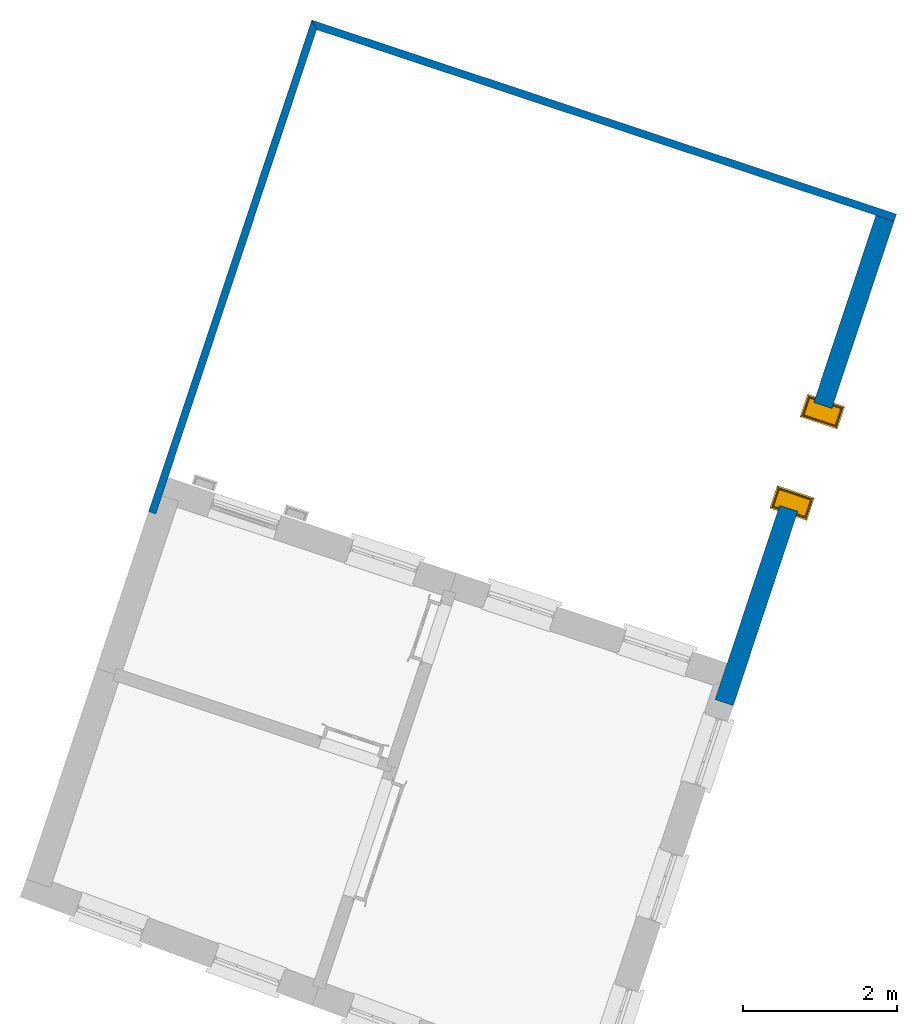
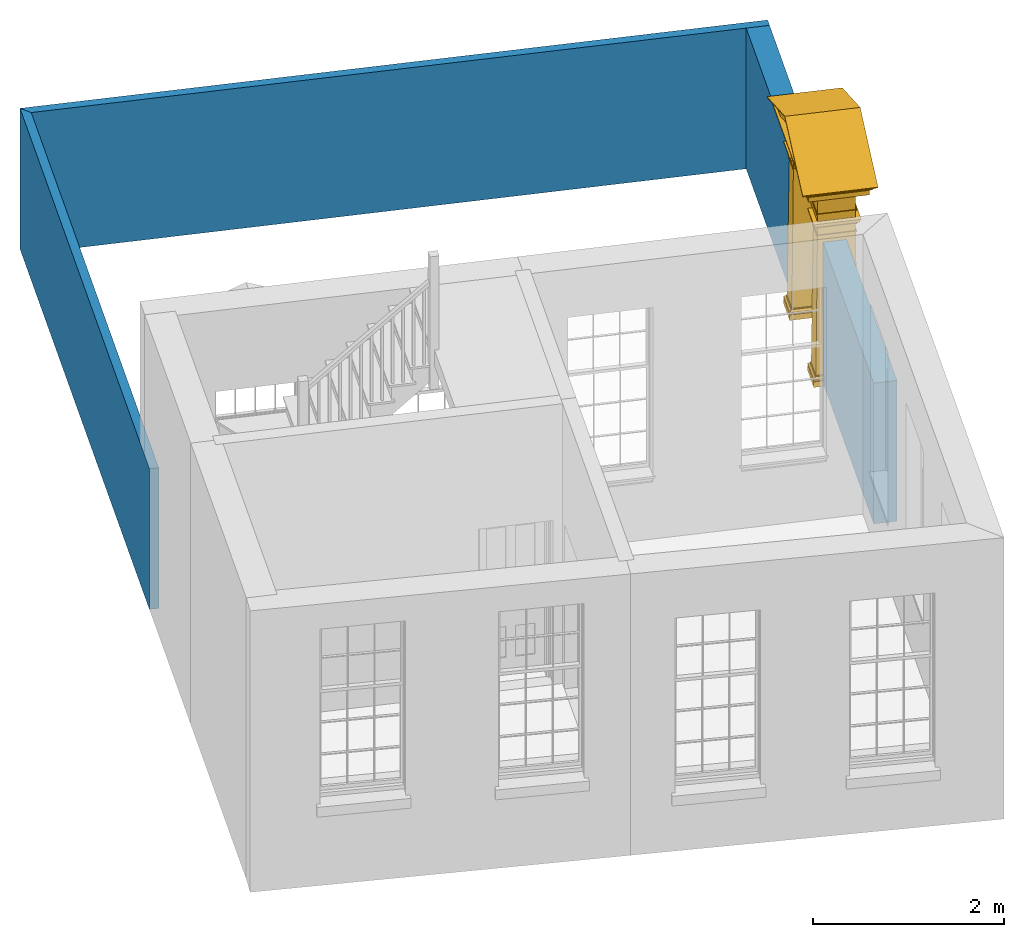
# One storey, part 6 of 6: 3 walls, 1 door, 1 opening.
"""IFC4 building model written with IfcOpenShell, lengths in metres."""

from ifc_helpers import new_model, si_unit, frame, origin, origin_with_axes, place, context, subcontext, project, spatial, polyline, outline, extrude, faceted_brep, source, transform, mapped, material, layer, layer_set, layer_usage, type_object, type_shapes, element, fill, save


model = new_model("IFC4")

# Units and contexts
model_context = context("Model", 3, world=origin_with_axes())
body_context = subcontext(model_context, "Body", "Model", "MODEL_VIEW")
ifc_project = project(units=[si_unit("PLANEANGLEUNIT", "RADIAN"), si_unit("MASSUNIT", "GRAM", prefix="KILO"), si_unit("FORCEUNIT", "NEWTON", prefix="KILO"), si_unit("LENGTHUNIT", "METRE"), si_unit("AREAUNIT", "SQUARE_METRE"), si_unit("VOLUMEUNIT", "CUBIC_METRE")], contexts=[model_context, model_context])

# Sites, building, storey
site_1_placement = place(None, origin_with_axes())
site_1 = spatial("IfcSite", under=ifc_project, at=site_1_placement, Name="Tamar")
site_2_placement = place(site_1_placement, origin_with_axes())
site_2 = spatial("IfcSite", under=site_1, at=site_2_placement, Name="Site plot-18", CompositionType="ELEMENT")
building_placement = place(None, origin_with_axes())
building = spatial("IfcBuilding", under=site_2, at=building_placement, Name="Building plot-18", CompositionType="ELEMENT")
storey_placement = place(None, frame((0.0, 0.0, 26.0), z_axis=(0.0, 0.0, 1.0), x_axis=(1.0, 0.0, 0.0)))
storey = spatial("IfcBuildingStorey", under=building, at=storey_placement, Name="plot-18 0", CompositionType="ELEMENT", Elevation=26.0)

# Walls
ifc_material_1 = material(Name="Masonry")
ifc_layer_1 = layer(ifc_material_1, 0.1, ventilated=False)
ifc_layer_set_1 = layer_set([ifc_layer_1], Name="fence_-0.15_0.25")
ifc_layer_usage_1 = layer_usage(ifc_layer_set_1, "AXIS2", "POSITIVE", -0.25)
wall_type_1 = type_object("IfcWallType", Name="fence_-0.15_0.25", PredefinedType="SOLIDWALL", material=ifc_layer_set_1)
wall_1_placement = place(storey_placement, frame((272.752286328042, 300.116321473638, 0.0), z_axis=(0.0, 0.0, 1.0), x_axis=(-0.949078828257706, 0.315038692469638, 0.0)))
element("IfcWall", 1, at=wall_1_placement, inside=storey, type_object=wall_type_1, material=ifc_layer_usage_1, Name="fence", context=body_context, shape_type="SweptSolid", body=[
    extrude(outline(polyline([(-0.249999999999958, -0.149999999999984), (-0.249999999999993, -0.249999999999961), (7.7499999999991, -0.249999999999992), (7.64999999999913, -0.15000000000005), (-0.249999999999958, -0.149999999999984)])), origin_with_axes(), (0.0, 0.0, 1.0), 1.8),
])
wall_2_placement = place(storey_placement, frame((265.63419511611, 302.47911166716, 0.0), z_axis=(0.0, 0.0, 1.0), x_axis=(-0.315038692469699, -0.949078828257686, 0.0)))
element("IfcWall", 2, at=wall_2_placement, inside=storey, type_object=wall_type_1, material=ifc_layer_usage_1, Name="fence", context=body_context, shape_type="SweptSolid", body=[
    extrude(outline(polyline([(-0.150000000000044, -0.149999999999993), (-0.249999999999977, -0.249999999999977), (6.47586766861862, -0.249999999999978), (6.47586766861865, -0.150000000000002), (-0.150000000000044, -0.149999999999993)])), origin_with_axes(), (0.0, 0.0, 1.0), 1.8),
])

# Wall, opening, door
ifc_material_2 = material(Name="Masonry")
ifc_layer_2 = layer(ifc_material_2, 0.25, ventilated=False)
ifc_layer_set_2 = layer_set([ifc_layer_2], Name="fence_0_0.25")
ifc_layer_usage_2 = layer_usage(ifc_layer_set_2, "AXIS2", "POSITIVE", -0.25)
wall_type_2 = type_object("IfcWallType", Name="fence_0_0.25", PredefinedType="SOLIDWALL", material=ifc_layer_set_2)
wall_3_placement = place(storey_placement, frame((270.790897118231, 294.207482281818, 0.0), z_axis=(0.0, 0.0, 1.0), x_axis=(0.315038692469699, 0.949078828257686, 0.0)))
wall_3 = element("IfcWall", 3, at=wall_3_placement, inside=storey, type_object=wall_type_2, material=ifc_layer_usage_2, Name="fence", context=body_context, shape_type="SweptSolid", body=[
    extrude(outline(polyline([(-0.249999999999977, 2.52660774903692e-16), (-0.249999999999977, -0.249999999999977), (6.47586766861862, -0.249999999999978), (6.47586766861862, 0.0), (-0.249999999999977, 2.52660774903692e-16)])), origin_with_axes(), (0.0, 0.0, 1.0), 1.8),
])
opening_placement = place(wall_3_placement, frame((2.40793383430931, 0.0, -0.0100000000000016)))
opening = element("IfcOpeningElement", 4, at=opening_placement, cuts=wall_3, Name="My Opening", ObjectType="Opening", context=body_context, shape_type="SweptSolid", body=[
    extrude(outline(polyline([(0.0, -0.269999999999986), (1.41000000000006, -0.270000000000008), (1.40999999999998, 1.02000000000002), (-8.79296635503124e-14, 1.02000000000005), (0.0, -0.269999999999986)])), origin_with_axes(), (0.0, 0.0, 1.0), 1.81),
])
door_type = type_object("IfcDoorType", Name="gate", OperationType="SINGLE_SWING_LEFT", PredefinedType="NOTDEFINED")
shared_shape = source(origin(), body_context, "Body", "Brep", [
    faceted_brep([(1.565, 0.25, 2.5), (1.565, -0.21, 2.5), (1.565, -0.21, 2.49), (1.565, 0.25, 2.49), (1.445, -0.09, 2.01), (1.215, -0.09, 2.01), (1.215, -0.09, 2.0), (1.445, -0.09, 2.0), (-0.035, -0.09, 2.180001), (-0.025, -0.08, 2.180001), (-0.025, 0.25, 2.180001), (-0.035, 0.25, 2.180001), (-0.025, -0.08, 2.170001), (-0.035, -0.09, 2.170001), (-0.035, 0.25, 2.170001), (-0.025, 0.25, 2.170001), (1.445, -0.09, 2.180001), (1.435, -0.08, 2.180001), (-0.025, -0.08, 2.37), (-0.025, 0.25, 2.37), (1.435, -0.08, 2.170001), (1.445, -0.09, 2.170001), (-0.025, -0.08, 2.08), (-0.025, 0.25, 2.08), (1.445, 0.25, 2.180001), (1.435, 0.25, 2.180001), (1.435, -0.08, 2.37), (-0.035, -0.09, 2.37), (-0.035, 0.25, 2.37), (1.435, 0.25, 2.37), (1.445, 0.25, 2.170001), (1.435, 0.25, 2.170001), (0.235, -0.08, 2.08), (0.235, 0.25, 2.08), (1.175, 0.25, 2.08), (1.175, -0.08, 2.08), (-0.075, 0.25, 2.08), (-0.075, -0.13, 2.08), (1.445, -0.09, 2.37), (-0.035, -0.09, 2.380001), (-0.035, 0.25, 2.380001), (1.445, 0.25, 2.37), (1.435, -0.08, 2.08), (1.435, 0.25, 2.08), (0.235, 0.38, 2.07), (0.235, 0.38, 2.08), (0.235, 0.33, 2.08), (0.235, -0.13, 2.08), (-0.075, 0.25, 2.07), (-0.075, -0.13, 2.07), (1.445, -0.09, 2.380001), (-0.045, -0.1, 2.39), (-0.045, 0.25, 2.39), (1.455, 0.25, 2.39), (1.455, -0.1, 2.39), (1.445, 0.25, 2.380001), (1.485, -0.13, 2.08), (1.485, 0.25, 2.08), (0.235, -0.13, 2.07), (1.175, -0.13, 2.08), (-0.065, 0.25, 2.07), (-0.065, -0.12, 2.07), (-0.055, -0.11, 2.39), (-0.055, 0.25, 2.39), (1.465, 0.25, 2.39), (1.465, -0.11, 2.39), (1.485, 0.25, 2.07), (1.485, -0.13, 2.07), (0.225, 0.25, 2.07), (0.235, 0.25, 2.07), (0.225, -0.12, 2.07), (-0.065, 0.25, 2.04), (-0.065, -0.12, 2.04), (1.475, 0.25, 2.07), (1.475, -0.12, 2.07), (1.175, 0.25, 2.07), (1.185, 0.25, 2.07), (1.185, -0.12, 2.07), (1.175, -0.13, 2.07), (1.175, 0.33, 2.08), (1.175, 0.38, 2.07), (-0.055, -0.11, 2.4), (-0.055, 0.25, 2.4), (1.465, 0.25, 2.4), (1.465, -0.11, 2.4), (0.225, 0.25, 2.04), (0.225, -0.12, 2.04), (-0.055, 0.25, 2.04), (-0.055, -0.11, 2.04), (1.475, 0.25, 2.04), (1.475, -0.12, 2.04), (1.185, 0.25, 2.04), (1.195, 0.25, 2.04), (1.195, -0.11, 2.04), (1.185, -0.12, 2.04), (-0.065, -0.12, 2.4), (-0.065, 0.25, 2.4), (-0.085, -0.14, 2.42), (-0.085, 0.25, 2.42), (-0.085, -0.14, 2.43), (-0.085, 0.25, 2.43), (1.495, 0.25, 2.43), (1.495, -0.14, 2.43), (1.495, -0.14, 2.42), (1.495, 0.25, 2.42), (1.475, 0.25, 2.4), (1.475, -0.12, 2.4), (0.215, 0.25, 2.04), (0.215, -0.11, 2.04), (-0.055, 0.25, 2.03), (-0.055, -0.11, 2.03), (0.215, 0.25, 2.03), (0.215, -0.11, 2.03), (1.465, 0.25, 2.04), (1.465, -0.11, 2.04), (1.195, 0.25, 2.03), (1.195, -0.11, 2.03), (1.465, 0.25, 2.03), (1.465, -0.11, 2.03), (-0.145, -0.2, 2.43), (-0.145, 0.25, 2.43), (1.555, 0.25, 2.43), (1.555, -0.2, 2.43), (-0.035, 0.25, 2.01), (-0.035, -0.09, 2.01), (0.195, 0.25, 2.01), (0.195, -0.09, 2.01), (1.215, 0.25, 2.01), (1.445, 0.25, 2.01), (-0.145, -0.2, 2.49), (-0.145, 0.25, 2.49), (1.555, 0.25, 2.49), (1.555, -0.2, 2.49), (-0.035, 0.25, 2.0), (-0.035, -0.09, 2.0), (0.195, 0.25, 2.0), (0.195, -0.09, 2.0), (1.215, 0.25, 2.0), (1.445, 0.25, 2.0), (-0.155, -0.21, 2.49), (-0.155, 0.25, 2.49), (-0.155, -0.21, 2.5), (-0.155, 0.25, 2.5), (-0.165, -0.22, 2.51), (-0.165, 0.25, 2.51), (1.575, 0.25, 2.51), (1.575, -0.22, 2.51), (-0.025, -0.08, 2.0), (-0.025, 0.25, 2.0), (0.185, -0.08, 2.0), (0.185, 0.25, 2.0), (-0.025, 0.25, 1.91), (-0.025, -0.08, 1.91), (0.185, 0.25, 1.91), (0.185, -0.08, 1.91), (1.225, 0.25, 2.0), (1.225, -0.08, 2.0), (1.435, -0.08, 2.0), (1.435, 0.25, 2.0), (1.435, 0.25, 1.91), (1.435, -0.08, 1.91), (1.225, 0.25, 1.91), (1.225, -0.08, 1.91), (-0.175, -0.23, 2.51), (-0.175, 0.25, 2.51), (1.585, 0.25, 2.51), (1.585, -0.23, 2.51), (-0.035, 0.25, 1.91), (-0.035, -0.09, 1.91), (0.195, -0.09, 1.91), (0.195, 0.25, 1.91), (1.445, -0.09, 1.91), (1.445, 0.25, 1.91), (1.215, -0.09, 1.91), (1.215, 0.25, 1.91), (-0.175, -0.23, 2.52), (-0.175, 0.25, 2.52), (1.585, 0.25, 2.52), (1.585, -0.23, 2.52), (-0.035, 0.25, 1.9), (-0.035, -0.09, 1.9), (0.195, 0.25, 1.9), (0.195, -0.09, 1.9), (-0.025, -0.08, 1.9), (-0.025, 0.25, 1.9), (0.185, -0.08, 1.9), (0.185, 0.25, 1.9), (-0.045, 0.25, 0.13), (-0.045, -0.1, 0.13), (0.205, 0.25, 0.13), (0.205, -0.1, 0.13), (1.445, -0.09, 1.9), (1.445, 0.25, 1.9), (1.435, -0.08, 1.9), (1.435, 0.25, 1.9), (1.455, -0.1, 0.13), (1.455, 0.25, 0.13), (1.225, 0.25, 1.9), (1.205, 0.25, 0.13), (1.205, -0.1, 0.13), (1.225, -0.08, 1.9), (1.215, -0.09, 1.9), (1.215, 0.25, 1.9), (-0.185, -0.24, 2.526), (-0.185, 0.25, 2.526), (-0.150858, -0.23, 2.52), (1.560858, -0.23, 2.52), (-0.195, -0.25, 2.551001), (-0.195, 0.25, 2.551001), (-0.223, 0.25, 2.561001), (-0.223, -0.278, 2.561001), (1.633, -0.278, 2.561001), (1.605, -0.25, 2.551001), (1.605, 0.25, 2.551001), (1.633, 0.25, 2.561001), (1.595, 0.25, 2.526), (1.595, -0.24, 2.526), (-0.055, 0.25, 0.13), (-0.055, -0.11, 0.13), (0.215, 0.25, 0.13), (0.215, -0.11, 0.13), (1.465, -0.11, 0.13), (1.465, 0.25, 0.13), (1.195, 0.25, 0.13), (1.195, -0.11, 0.13), (0.705, -0.23, 2.884508), (0.705, -0.24, 2.89465), (0.705, -0.23, 2.874508), (1.486538, -0.21, 2.522499), (-0.076538, -0.21, 2.522499), (0.705, -0.25, 2.923792), (0.705, -0.278, 2.945389), (-0.223, -0.278, 2.571001), (-0.223, 0.25, 2.571001), (1.633, 0.25, 2.571001), (1.633, -0.278, 2.571001), (-0.055, 0.25, 0.12), (-0.055, -0.11, 0.12), (0.215, 0.25, 0.12), (0.215, -0.11, 0.12), (-0.075, 0.25, 0.1), (-0.075, -0.13, 0.1), (0.235, 0.25, 0.1), (0.235, -0.13, 0.1), (1.465, 0.25, 0.12), (1.465, -0.11, 0.12), (1.485, 0.25, 0.1), (1.485, -0.13, 0.1), (1.195, 0.25, 0.12), (1.175, 0.25, 0.1), (1.175, -0.13, 0.1), (1.195, -0.11, 0.12), (-0.13784, -0.22, 2.52125), (0.705, -0.22, 2.870365), (1.51068, -0.21, 2.522499), (1.54784, -0.22, 2.52125), (1.316733, -0.2, 2.523749), (0.093267, -0.2, 2.523749), (-0.10068, -0.21, 2.522499), (0.705, -0.278, 2.955389), (0.705, 0.25, 2.955389), (-0.075, 0.25, 0.08), (-0.075, -0.13, 0.08), (0.235, 0.25, 0.08), (0.235, -0.13, 0.08), (1.485, -0.13, 0.08), (1.485, 0.25, 0.08), (1.175, 0.25, 0.08), (1.175, -0.13, 0.08), (0.705, -0.21, 2.856223), (0.705, -0.21, 2.846222), (1.272495, -0.14, 2.53125), (0.137505, -0.14, 2.53125), (-0.06352, -0.2, 2.523749), (1.47352, -0.2, 2.523749), (-0.065, 0.25, 0.07), (-0.065, -0.12, 0.07), (0.225, 0.25, 0.07), (0.225, -0.12, 0.07), (1.475, 0.25, 0.07), (1.475, -0.12, 0.07), (1.185, 0.25, 0.07), (1.185, -0.12, 0.07), (0.705, -0.2, 2.842082), (1.298626, -0.14, 2.53125), (1.214197, -0.12, 2.533749), (0.195803, -0.12, 2.533749), (0.111374, -0.14, 2.53125), (0.705, -0.2, 2.777137), (-0.075, 0.25, 0.07), (-0.075, -0.13, 0.07), (0.235, -0.13, 0.07), (0.235, 0.25, 0.07), (0.235, -0.13, 0.0), (-0.075, -0.13, 0.0), (-0.075, 0.25, 0.0), (0.235, 0.25, 0.0), (1.485, -0.13, 0.07), (1.485, 0.25, 0.07), (1.485, -0.13, 0.0), (1.175, -0.13, 0.0), (1.175, 0.25, 0.0), (1.485, 0.25, 0.0), (1.175, -0.13, 0.07), (1.175, 0.25, 0.07), (0.705, -0.14, 2.766314), (0.705, -0.14, 2.777137), (0.705, -0.12, 2.744666), (1.185048, -0.11, 2.535), (0.224952, -0.11, 2.535), (0.705, -0.11, 2.744666), (1.211179, -0.11, 2.535), (1.12675, -0.09, 2.537501), (0.28325, -0.09, 2.537501), (0.198821, -0.11, 2.535), (0.705, -0.11, 2.733843), (1.152881, -0.09, 2.537501), (1.18203, -0.1, 2.536251), (0.286268, -0.08, 2.538751), (1.123732, -0.08, 2.538751), (0.22797, -0.1, 2.536251), (0.257119, -0.09, 2.537501), (0.705, -0.1, 2.733843), (0.705, -0.09, 2.712194), (0.705, -0.09, 2.723017), (0.705, -0.08, 2.712194), (-0.155, 0.46, 2.5), (-0.155, 0.46, 2.49), (-0.035, 0.34, 2.01), (0.195, 0.34, 2.01), (0.195, 0.34, 2.0), (-0.035, 0.34, 2.0), (1.445, 0.34, 2.180001), (1.435, 0.33, 2.180001), (1.435, 0.33, 2.170001), (1.445, 0.34, 2.170001), (-0.035, 0.34, 2.180001), (-0.025, 0.33, 2.180001), (1.435, 0.33, 2.37), (-0.025, 0.33, 2.170001), (-0.035, 0.34, 2.170001), (1.435, 0.33, 2.08), (-0.025, 0.33, 2.37), (1.445, 0.34, 2.37), (1.485, 0.38, 2.08), (-0.035, 0.34, 2.37), (1.445, 0.34, 2.380001), (-0.025, 0.33, 2.08), (1.175, 0.38, 2.08), (1.485, 0.38, 2.07), (-0.035, 0.34, 2.380001), (1.455, 0.35, 2.39), (-0.045, 0.35, 2.39), (-0.075, 0.38, 2.08), (1.475, 0.37, 2.07), (1.465, 0.36, 2.39), (-0.055, 0.36, 2.39), (-0.075, 0.38, 2.07), (1.185, 0.37, 2.07), (1.475, 0.37, 2.04), (-0.065, 0.37, 2.07), (0.225, 0.37, 2.07), (1.465, 0.36, 2.4), (-0.055, 0.36, 2.4), (1.185, 0.37, 2.04), (1.465, 0.36, 2.04), (-0.065, 0.37, 2.04), (0.215, 0.36, 2.04), (0.225, 0.37, 2.04), (1.475, 0.37, 2.4), (1.495, 0.39, 2.42), (1.495, 0.39, 2.43), (-0.085, 0.39, 2.43), (-0.085, 0.39, 2.42), (-0.065, 0.37, 2.4), (1.195, 0.36, 2.04), (1.465, 0.36, 2.03), (1.195, 0.36, 2.03), (-0.055, 0.36, 2.04), (0.215, 0.36, 2.03), (-0.055, 0.36, 2.03), (1.555, 0.45, 2.43), (-0.145, 0.45, 2.43), (1.445, 0.34, 2.01), (1.215, 0.34, 2.01), (1.555, 0.45, 2.49), (-0.145, 0.45, 2.49), (1.445, 0.34, 2.0), (1.215, 0.34, 2.0), (1.565, 0.46, 2.49), (1.565, 0.46, 2.5), (1.575, 0.47, 2.51), (-0.165, 0.47, 2.51), (1.435, 0.33, 2.0), (1.225, 0.33, 2.0), (1.435, 0.33, 1.91), (1.225, 0.33, 1.91), (0.185, 0.33, 2.0), (-0.025, 0.33, 2.0), (-0.025, 0.33, 1.91), (0.185, 0.33, 1.91), (1.585, 0.48, 2.51), (-0.175, 0.48, 2.51), (1.445, 0.34, 1.91), (1.215, 0.34, 1.91), (-0.035, 0.34, 1.91), (0.195, 0.34, 1.91), (1.585, 0.48, 2.52), (-0.175, 0.48, 2.52), (1.445, 0.34, 1.9), (1.215, 0.34, 1.9), (1.435, 0.33, 1.9), (1.225, 0.33, 1.9), (1.455, 0.35, 0.13), (1.205, 0.35, 0.13), (-0.035, 0.34, 1.9), (-0.025, 0.33, 1.9), (-0.045, 0.35, 0.13), (0.205, 0.35, 0.13), (0.185, 0.33, 1.9), (0.195, 0.34, 1.9), (1.595, 0.49, 2.526), (1.560858, 0.48, 2.52), (-0.150858, 0.48, 2.52), (1.605, 0.5, 2.551001), (1.633, 0.528, 2.561001), (-0.223, 0.528, 2.561001), (-0.195, 0.5, 2.551001), (-0.185, 0.49, 2.526), (1.465, 0.36, 0.13), (1.195, 0.36, 0.13), (-0.055, 0.36, 0.13), (0.215, 0.36, 0.13), (0.705, 0.48, 2.884508), (0.705, 0.49, 2.89465), (0.705, 0.48, 2.874508), (-0.076538, 0.46, 2.522499), (1.486538, 0.46, 2.522499), (0.705, 0.5, 2.923792), (0.705, 0.528, 2.945389), (1.633, 0.528, 2.571001), (-0.223, 0.528, 2.571001), (1.465, 0.36, 0.12), (1.195, 0.36, 0.12), (1.485, 0.38, 0.1), (1.175, 0.38, 0.1), (-0.055, 0.36, 0.12), (-0.075, 0.38, 0.1), (0.235, 0.38, 0.1), (0.215, 0.36, 0.12), (1.54784, 0.47, 2.52125), (0.705, 0.47, 2.870365), (-0.10068, 0.46, 2.522499), (-0.13784, 0.47, 2.52125), (0.093267, 0.45, 2.523749), (1.316733, 0.45, 2.523749), (1.51068, 0.46, 2.522499), (0.705, 0.528, 2.955389), (1.485, 0.38, 0.08), (1.175, 0.38, 0.08), (-0.075, 0.38, 0.08), (0.235, 0.38, 0.08), (0.705, 0.46, 2.856223), (0.705, 0.46, 2.846222), (0.137505, 0.39, 2.53125), (1.272495, 0.39, 2.53125), (1.47352, 0.45, 2.523749), (-0.06352, 0.45, 2.523749), (1.475, 0.37, 0.07), (1.185, 0.37, 0.07), (-0.065, 0.37, 0.07), (0.225, 0.37, 0.07), (0.705, 0.45, 2.842082), (0.111374, 0.39, 2.53125), (0.195803, 0.37, 2.533749), (1.214197, 0.37, 2.533749), (1.298626, 0.39, 2.53125), (0.705, 0.45, 2.777137), (1.485, 0.38, 0.07), (1.175, 0.38, 0.07), (1.175, 0.38, 0.0), (1.485, 0.38, 0.0), (-0.075, 0.38, 0.07), (-0.075, 0.38, 0.0), (0.235, 0.38, 0.0), (0.235, 0.38, 0.07), (0.705, 0.39, 2.766314), (0.705, 0.39, 2.777137), (0.705, 0.37, 2.744666), (0.224952, 0.36, 2.535), (1.185048, 0.36, 2.535), (0.705, 0.36, 2.744666), (0.198821, 0.36, 2.535), (0.28325, 0.34, 2.537501), (1.12675, 0.34, 2.537501), (1.211179, 0.36, 2.535), (0.705, 0.36, 2.733843), (0.257119, 0.34, 2.537501), (0.22797, 0.35, 2.536251), (1.123732, 0.33, 2.538751), (0.286268, 0.33, 2.538751), (1.18203, 0.35, 2.536251), (1.152881, 0.34, 2.537501), (0.705, 0.35, 2.733843), (0.705, 0.34, 2.723017), (0.705, 0.34, 2.712194), (0.705, 0.33, 2.712194)], [[[0, 1, 2, 3]], [[4, 5, 6, 7]], [[8, 9, 10, 11]], [[12, 13, 14, 15]], [[13, 8, 11, 14]], [[9, 8, 16, 17]], [[9, 18, 19, 10]], [[13, 12, 20, 21]], [[22, 12, 15, 23]], [[8, 13, 21, 16]], [[17, 16, 24, 25]], [[18, 9, 17, 26]], [[27, 28, 19, 18]], [[26, 17, 25, 29]], [[16, 21, 30, 24]], [[21, 20, 31, 30]], [[32, 33, 34, 35]], [[12, 32, 35, 20]], [[12, 22, 32]], [[22, 23, 36, 37]], [[27, 18, 26, 38]], [[39, 40, 28, 27]], [[41, 38, 26, 29]], [[20, 42, 43, 31]], [[44, 45, 46]], [[42, 20, 35]], [[37, 47, 32, 22]], [[36, 48, 49, 37]], [[39, 27, 38, 50]], [[51, 52, 40, 39]], [[53, 54, 50, 55]], [[55, 50, 38, 41]], [[43, 42, 56, 57]], [[32, 47, 58]], [[59, 56, 42, 35]], [[58, 47, 37, 49]], [[48, 60, 61, 49]], [[51, 39, 50, 54]], [[62, 63, 52, 51]], [[64, 65, 54, 53]], [[66, 57, 56, 67]], [[68, 69, 58, 70]], [[60, 71, 72, 61]], [[73, 66, 67, 74]], [[75, 76, 77, 78]], [[34, 79, 80, 75]], [[59, 78, 67, 56]], [[61, 70, 58, 49]], [[62, 51, 54, 65]], [[81, 82, 63, 62]], [[83, 84, 65, 64]], [[85, 68, 70, 86]], [[71, 87, 88, 72]], [[86, 70, 61, 72]], [[77, 74, 67, 78]], [[89, 73, 74, 90]], [[91, 92, 93, 94]], [[76, 91, 94, 77]], [[81, 62, 65, 84]], [[95, 96, 82, 81]], [[97, 98, 96, 95]], [[99, 100, 98, 97]], [[101, 102, 103, 104]], [[105, 106, 84, 83]], [[104, 103, 106, 105]], [[107, 85, 86, 108]], [[87, 109, 110, 88]], [[88, 108, 86, 72]], [[111, 107, 108, 112]], [[77, 94, 90, 74]], [[113, 89, 90, 114]], [[92, 115, 116, 93]], [[93, 114, 90, 94]], [[117, 113, 114, 118]], [[95, 81, 84, 106]], [[97, 95, 106, 103]], [[119, 120, 100, 99]], [[99, 97, 103, 102]], [[121, 122, 102, 101]], [[109, 123, 124, 110]], [[112, 108, 88, 110]], [[125, 111, 112, 126]], [[115, 127, 5, 116]], [[93, 116, 118, 114]], [[128, 117, 118, 4]], [[129, 130, 120, 119]], [[119, 99, 102, 122]], [[131, 132, 122, 121]], [[123, 133, 134, 124]], [[110, 124, 126, 112]], [[135, 125, 126, 136]], [[127, 137, 6, 5]], [[4, 118, 116, 5]], [[138, 128, 4, 7]], [[139, 140, 130, 129]], [[129, 119, 122, 132]], [[141, 142, 140, 139]], [[143, 144, 142, 141]], [[145, 146, 1, 0]], [[3, 2, 132, 131]], [[147, 134, 133, 148]], [[126, 124, 134, 136]], [[135, 136, 149, 150]], [[148, 151, 152, 147]], [[153, 150, 149, 154]], [[6, 137, 155, 156]], [[7, 157, 158, 138]], [[159, 158, 157, 160]], [[155, 161, 162, 156]], [[139, 129, 132, 2]], [[141, 139, 2, 1]], [[163, 164, 144, 143]], [[143, 141, 1, 146]], [[165, 166, 146, 145]], [[147, 149, 136, 134]], [[167, 168, 152, 151]], [[147, 152, 154, 149]], [[154, 169, 170, 153]], [[156, 157, 7, 6]], [[160, 157, 156, 162]], [[171, 172, 159, 160]], [[173, 162, 161, 174]], [[175, 176, 164, 163]], [[163, 143, 146, 166]], [[177, 178, 166, 165]], [[179, 180, 168, 167]], [[154, 152, 168, 169]], [[181, 170, 169, 182]], [[183, 180, 179, 184]], [[181, 182, 185, 186]], [[184, 187, 188, 183]], [[189, 186, 185, 190]], [[160, 162, 173, 171]], [[191, 192, 172, 171]], [[191, 193, 194, 192]], [[193, 195, 196, 194]], [[197, 198, 199, 200]], [[201, 202, 197, 200]], [[174, 202, 201, 173]], [[203, 204, 176, 175]], [[175, 163, 205]], [[163, 166, 206, 205]], [[207, 208, 204, 203]], [[209, 208, 207, 210]], [[211, 212, 213, 214]], [[215, 216, 178, 177]], [[213, 212, 216, 215]], [[178, 206, 166]], [[180, 182, 169, 168]], [[183, 185, 182, 180]], [[187, 217, 218, 188]], [[183, 188, 190, 185]], [[219, 189, 190, 220]], [[201, 191, 171, 173]], [[200, 193, 191, 201]], [[195, 193, 200, 199]], [[195, 221, 222, 196]], [[198, 223, 224, 199]], [[175, 225, 226, 203]], [[225, 175, 205, 227]], [[205, 206, 228, 229]], [[203, 226, 230, 207]], [[207, 230, 231, 210]], [[232, 233, 209, 210]], [[234, 235, 211, 214]], [[231, 230, 212, 211]], [[216, 226, 225, 178]], [[212, 230, 226, 216]], [[227, 206, 178, 225]], [[217, 236, 237, 218]], [[220, 190, 188, 218]], [[238, 219, 220, 239]], [[236, 240, 241, 237]], [[242, 238, 239, 243]], [[221, 195, 199, 224]], [[244, 222, 221, 245]], [[246, 244, 245, 247]], [[248, 249, 250, 251]], [[223, 248, 251, 224]], [[227, 205, 252, 253]], [[254, 228, 206, 255]], [[256, 257, 229, 228]], [[252, 205, 229, 258]], [[231, 259, 232, 210]], [[260, 233, 232, 259]], [[234, 260, 259, 235]], [[259, 231, 211, 235]], [[253, 255, 206, 227]], [[239, 220, 218, 237]], [[261, 262, 241, 240]], [[243, 239, 237, 241]], [[263, 242, 243, 264]], [[224, 251, 245, 221]], [[251, 250, 247, 245]], [[265, 266, 246, 247]], [[249, 267, 268, 250]], [[253, 252, 258, 269]], [[270, 228, 254, 269]], [[269, 254, 255, 253]], [[256, 271, 272, 257]], [[273, 229, 257]], [[274, 256, 228]], [[269, 258, 229, 270]], [[261, 275, 276, 262]], [[264, 243, 241, 262]], [[277, 263, 264, 278]], [[250, 268, 265, 247]], [[279, 266, 265, 280]], [[267, 281, 282, 268]], [[283, 274, 228, 270]], [[284, 271, 256]], [[271, 285, 286, 272]], [[287, 257, 272]], [[270, 229, 273, 283]], [[283, 273, 257, 288]], [[288, 256, 274, 283]], [[289, 290, 276, 275]], [[262, 276, 278, 264]], [[278, 291, 292, 277]], [[293, 294, 295, 296]], [[280, 265, 268, 282]], [[297, 298, 279, 280]], [[299, 300, 301, 302]], [[303, 282, 281, 304]], [[305, 271, 284, 306]], [[306, 284, 256, 288]], [[307, 285, 271, 305]], [[285, 308, 309, 286]], [[305, 272, 286, 307]], [[288, 257, 287, 306]], [[306, 287, 272, 305]], [[289, 295, 294, 290]], [[278, 276, 290, 291]], [[296, 292, 291, 293]], [[290, 294, 293, 291]], [[280, 282, 303, 297]], [[302, 298, 297, 299]], [[299, 297, 303, 300]], [[304, 301, 300, 303]], [[310, 311, 285, 307]], [[311, 308, 285]], [[308, 312, 313, 309]], [[314, 286, 309]], [[307, 286, 314, 310]], [[315, 308, 311, 310]], [[316, 312, 308, 317]], [[318, 313, 312, 319]], [[320, 309, 313, 321]], [[310, 314, 309, 315]], [[322, 317, 308, 315]], [[323, 312, 316, 324]], [[324, 316, 317, 322]], [[323, 313, 318, 325]], [[325, 319, 312, 323]], [[325, 318, 319]], [[315, 309, 320, 322]], [[324, 321, 313, 323]], [[322, 320, 321, 324]], [[142, 326, 327, 140]], [[328, 329, 330, 331]], [[332, 333, 25, 24]], [[334, 335, 30, 31]], [[335, 332, 24, 30]], [[333, 332, 336, 337]], [[333, 338, 29, 25]], [[335, 334, 339, 340]], [[341, 334, 31, 43]], [[332, 335, 340, 336]], [[337, 336, 11, 10]], [[338, 333, 337, 342]], [[343, 41, 29, 338]], [[342, 337, 10, 19]], [[336, 340, 14, 11]], [[340, 339, 15, 14]], [[79, 34, 33, 46]], [[334, 79, 46, 339]], [[334, 341, 79]], [[341, 43, 57, 344]], [[343, 338, 342, 345]], [[346, 55, 41, 343]], [[28, 345, 342, 19]], [[339, 347, 23, 15]], [[35, 34, 75, 78]], [[33, 32, 58, 69]], [[347, 339, 46]], [[344, 348, 79, 341]], [[57, 66, 349, 344]], [[346, 343, 345, 350]], [[351, 53, 55, 346]], [[52, 352, 350, 40]], [[40, 350, 345, 28]], [[23, 347, 353, 36]], [[79, 348, 80]], [[45, 353, 347, 46]], [[80, 348, 344, 349]], [[66, 73, 354, 349]], [[351, 346, 350, 352]], [[355, 64, 53, 351]], [[63, 356, 352, 52]], [[48, 36, 353, 357]], [[76, 75, 80, 358]], [[73, 89, 359, 354]], [[60, 48, 357, 360]], [[69, 68, 361, 44]], [[46, 33, 69, 44]], [[45, 44, 357, 353]], [[354, 358, 80, 349]], [[355, 351, 352, 356]], [[362, 83, 64, 355]], [[82, 363, 356, 63]], [[91, 76, 358, 364]], [[89, 113, 365, 359]], [[364, 358, 354, 359]], [[361, 360, 357, 44]], [[71, 60, 360, 366]], [[85, 107, 367, 368]], [[68, 85, 368, 361]], [[362, 355, 356, 363]], [[369, 105, 83, 362]], [[370, 104, 105, 369]], [[371, 101, 104, 370]], [[100, 372, 373, 98]], [[96, 374, 363, 82]], [[98, 373, 374, 96]], [[92, 91, 364, 375]], [[113, 117, 376, 365]], [[365, 375, 364, 359]], [[115, 92, 375, 377]], [[361, 368, 366, 360]], [[87, 71, 366, 378]], [[107, 111, 379, 367]], [[367, 378, 366, 368]], [[109, 87, 378, 380]], [[369, 362, 363, 374]], [[370, 369, 374, 373]], [[381, 121, 101, 371]], [[371, 370, 373, 372]], [[120, 382, 372, 100]], [[117, 128, 383, 376]], [[377, 375, 365, 376]], [[127, 115, 377, 384]], [[111, 125, 329, 379]], [[367, 379, 380, 378]], [[123, 109, 380, 328]], [[385, 131, 121, 381]], [[381, 371, 372, 382]], [[130, 386, 382, 120]], [[128, 138, 387, 383]], [[376, 383, 384, 377]], [[137, 127, 384, 388]], [[125, 135, 330, 329]], [[328, 380, 379, 329]], [[133, 123, 328, 331]], [[389, 3, 131, 385]], [[385, 381, 382, 386]], [[390, 0, 3, 389]], [[391, 145, 0, 390]], [[144, 392, 326, 142]], [[140, 327, 386, 130]], [[393, 387, 138, 158]], [[384, 383, 387, 388]], [[137, 388, 394, 155]], [[158, 159, 395, 393]], [[161, 155, 394, 396]], [[330, 135, 150, 397]], [[331, 398, 148, 133]], [[151, 148, 398, 399]], [[150, 153, 400, 397]], [[389, 385, 386, 327]], [[390, 389, 327, 326]], [[401, 165, 145, 391]], [[391, 390, 326, 392]], [[164, 402, 392, 144]], [[393, 394, 388, 387]], [[172, 403, 395, 159]], [[393, 395, 396, 394]], [[396, 404, 174, 161]], [[397, 398, 331, 330]], [[399, 398, 397, 400]], [[405, 167, 151, 399]], [[406, 400, 153, 170]], [[407, 177, 165, 401]], [[401, 391, 392, 402]], [[176, 408, 402, 164]], [[192, 409, 403, 172]], [[396, 395, 403, 404]], [[202, 174, 404, 410]], [[411, 409, 192, 194]], [[202, 410, 412, 197]], [[194, 196, 413, 411]], [[198, 197, 412, 414]], [[399, 400, 406, 405]], [[415, 179, 167, 405]], [[415, 416, 184, 179]], [[416, 417, 187, 184]], [[186, 189, 418, 419]], [[420, 181, 186, 419]], [[170, 181, 420, 406]], [[421, 215, 177, 407]], [[407, 401, 422]], [[401, 402, 423, 422]], [[424, 213, 215, 421]], [[214, 213, 424, 425]], [[426, 427, 208, 209]], [[204, 428, 408, 176]], [[208, 427, 428, 204]], [[408, 423, 402]], [[409, 410, 404, 403]], [[411, 412, 410, 409]], [[196, 222, 429, 413]], [[411, 413, 414, 412]], [[223, 198, 414, 430]], [[420, 415, 405, 406]], [[419, 416, 415, 420]], [[417, 416, 419, 418]], [[417, 431, 217, 187]], [[189, 219, 432, 418]], [[407, 433, 434, 421]], [[433, 407, 422, 435]], [[422, 423, 436, 437]], [[421, 434, 438, 424]], [[424, 438, 439, 425]], [[440, 234, 214, 425]], [[233, 441, 426, 209]], [[439, 438, 427, 426]], [[428, 434, 433, 408]], [[427, 438, 434, 428]], [[435, 423, 408, 433]], [[222, 244, 442, 429]], [[430, 414, 413, 429]], [[248, 223, 430, 443]], [[244, 246, 444, 442]], [[249, 248, 443, 445]], [[431, 417, 418, 432]], [[236, 217, 431, 446]], [[240, 236, 446, 447]], [[238, 242, 448, 449]], [[219, 238, 449, 432]], [[435, 422, 450, 451]], [[452, 436, 423, 453]], [[454, 455, 437, 436]], [[450, 422, 437, 456]], [[439, 457, 440, 425]], [[260, 234, 440, 457]], [[233, 260, 457, 441]], [[457, 439, 426, 441]], [[451, 453, 423, 435]], [[443, 430, 429, 442]], [[266, 458, 444, 246]], [[445, 443, 442, 444]], [[267, 249, 445, 459]], [[432, 449, 446, 431]], [[449, 448, 447, 446]], [[460, 261, 240, 447]], [[242, 263, 461, 448]], [[451, 450, 456, 462]], [[463, 436, 452, 462]], [[462, 452, 453, 451]], [[454, 464, 465, 455]], [[466, 437, 455]], [[467, 454, 436]], [[462, 456, 437, 463]], [[266, 279, 468, 458]], [[459, 445, 444, 458]], [[281, 267, 459, 469]], [[448, 461, 460, 447]], [[275, 261, 460, 470]], [[263, 277, 471, 461]], [[472, 467, 436, 463]], [[473, 464, 454]], [[464, 474, 475, 465]], [[476, 455, 465]], [[463, 437, 466, 472]], [[472, 466, 455, 477]], [[477, 454, 467, 472]], [[298, 478, 468, 279]], [[458, 468, 469, 459]], [[469, 479, 304, 281]], [[480, 481, 302, 301]], [[470, 460, 461, 471]], [[482, 289, 275, 470]], [[483, 484, 296, 295]], [[485, 471, 277, 292]], [[486, 464, 473, 487]], [[487, 473, 454, 477]], [[488, 474, 464, 486]], [[474, 489, 490, 475]], [[486, 465, 475, 488]], [[477, 455, 476, 487]], [[487, 476, 465, 486]], [[298, 302, 481, 478]], [[469, 468, 478, 479]], [[301, 304, 479, 480]], [[478, 481, 480, 479]], [[470, 471, 485, 482]], [[295, 289, 482, 483]], [[483, 482, 485, 484]], [[292, 296, 484, 485]], [[491, 492, 474, 488]], [[492, 489, 474]], [[489, 493, 494, 490]], [[495, 475, 490]], [[488, 475, 495, 491]], [[496, 489, 492, 491]], [[497, 493, 489, 498]], [[499, 494, 493, 500]], [[501, 490, 494, 502]], [[491, 495, 490, 496]], [[503, 498, 489, 496]], [[497, 504, 505, 493]], [[504, 497, 498, 503]], [[505, 494, 499, 506]], [[506, 500, 493, 505]], [[506, 499, 500]], [[496, 490, 501, 503]], [[504, 502, 494, 505]], [[503, 501, 502, 504]], [[78, 59, 35]]]),
])
type_shapes(door_type, [shared_shape])
door_placement = place(storey_placement, frame((271.805740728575, 296.407740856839, -0.0100000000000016), z_axis=(0.0, 0.0, 1.0), x_axis=(0.444204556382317, 1.33820114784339, 0.0)))
door = element("IfcDoor", 5, at=door_placement, inside=storey, type_object=door_type, Name="house entrance gate", OverallHeight=1.81, OverallWidth=1.41, context=body_context, shape_type="MappedRepresentation", body=[
    mapped(shared_shape, transform((0.0, 0.0, 0.0), scale=1.0)),
])
fill(opening, door)

save(model, "model.ifc")
